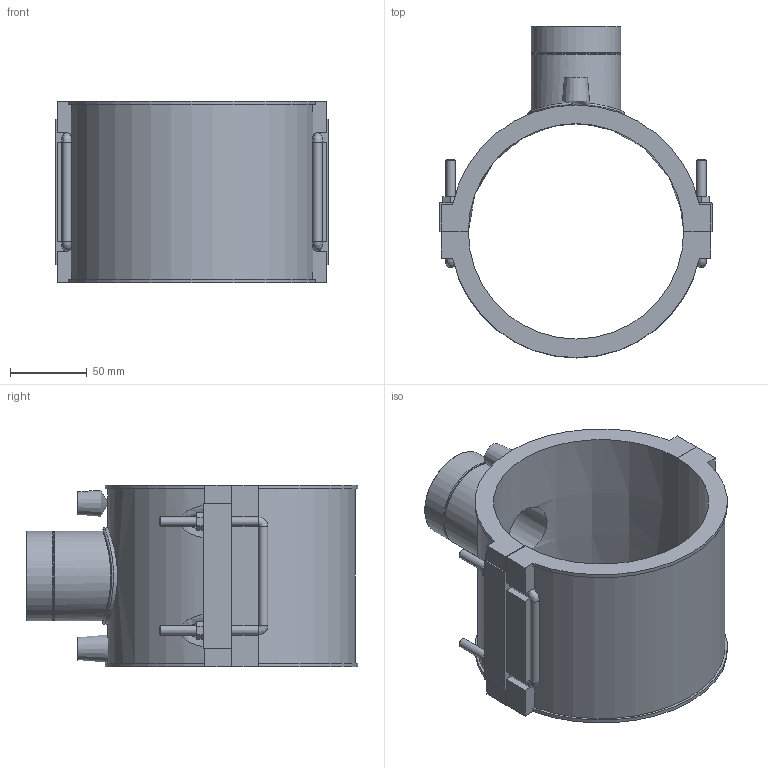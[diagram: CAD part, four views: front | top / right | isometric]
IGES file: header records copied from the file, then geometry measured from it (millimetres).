
Global section: file name: 493804140015.ipt; native system: Autodesk Inventor 2015; preprocessor: unknown; author: KIM; date: 20171106.094107; units: millimetre
Bounding box: 177 x 215.61 x 118 mm (x, y, z)
Volume: 732279.9 mm3; surface area: 163866.3 mm2
Topology: 2 solids, 2 shells, 146 faces, 372 edges, 234 vertices
Faces by surface type: plane 90, cylinder 24, revolution 14, cone 9, bspline 9
Full cylindrical faces by diameter (mm): 4 x2, 6 x10, 57.298 x1, 58.298 x2, 62.783 x1
